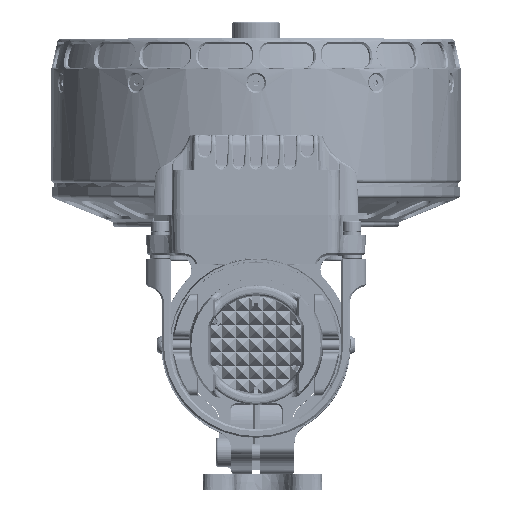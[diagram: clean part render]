
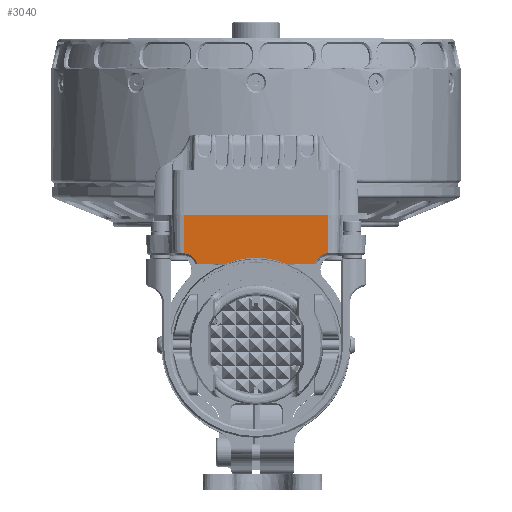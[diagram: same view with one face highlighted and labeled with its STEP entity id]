
A CAD part, top view. The second image highlights one B-rep face of the part: STEP entity #3040.
In plain terms, the highlighted planar face has unit normal (0, -0.035, 0.999).
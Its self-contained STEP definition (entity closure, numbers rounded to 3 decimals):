
#3040 = ADVANCED_FACE ( 'NONE', ( #46136 ), #264727, .T. ) ;
#9075 = CARTESIAN_POINT ( 'NONE',  ( -18.334, 25.304, 245.564 ) ) ;
#12349 = CARTESIAN_POINT ( 'NONE',  ( 17.144, 23.3, 245.494 ) ) ;
#14673 = CARTESIAN_POINT ( 'NONE',  ( 21.2, 26.492, 245.605 ) ) ;
#16366 = VERTEX_POINT ( 'NONE', #463198 ) ;
#38081 = CARTESIAN_POINT ( 'NONE',  ( -9.091, 23.3, 245.494 ) ) ;
#43352 = CARTESIAN_POINT ( 'NONE',  ( 9.091, 23.3, 245.494 ) ) ;
#46136 = FACE_OUTER_BOUND ( 'NONE', #450322, .T. ) ;
#51769 = CARTESIAN_POINT ( 'NONE',  ( -17.272, 23.71, 245.508 ) ) ;
#52854 = VERTEX_POINT ( 'NONE', #370585 ) ;
#54925 = CARTESIAN_POINT ( 'NONE',  ( -20.241, 26.369, 245.601 ) ) ;
#60428 = LINE ( 'NONE', #307653, #232123 ) ;
#76202 = VERTEX_POINT ( 'NONE', #305267 ) ;
#86113 = CARTESIAN_POINT ( 'NONE',  ( -17.144, 23.3, 245.494 ) ) ;
#90573 = CARTESIAN_POINT ( 'NONE',  ( -20.907, 26.476, 245.605 ) ) ;
#100993 = VERTEX_POINT ( 'NONE', #86113 ) ;
#101825 = AXIS2_PLACEMENT_3D ( 'NONE', #302737, #300419, #438440 ) ;
#119162 = DIRECTION ( 'NONE',  ( 0., -0.999, -0.035 ) ) ;
#147942 = DIRECTION ( 'NONE',  ( -1., 0., 0. ) ) ;
#153862 = EDGE_CURVE ( 'NONE', #422701, #440932, #326234, .T. ) ;
#154055 = CARTESIAN_POINT ( 'NONE',  ( -17.151, 23.325, 245.495 ) ) ;
#154950 = CARTESIAN_POINT ( 'NONE',  ( 17.151, 23.323, 245.494 ) ) ;
#157290 = CARTESIAN_POINT ( 'NONE',  ( 17.604, 24.417, 245.533 ) ) ;
#166411 = DIRECTION ( 'NONE',  ( -1., 0., 0. ) ) ;
#167772 = B_SPLINE_CURVE_WITH_KNOTS ( 'NONE', 3,
 ( #12349, #154950, #297540, #157290, #371251, #299921, #226204, #188242, #14673 ),
 .UNSPECIFIED., .F., .F.,
 ( 4, 1, 1, 1, 1, 1, 4 ),
 ( 0., 0., 0.001, 0.002, 0.003, 0.005, 0.005 ),
 .UNSPECIFIED. ) ;
#168732 = CARTESIAN_POINT ( 'NONE',  ( -14.937, 23.3, 245.494 ) ) ;
#179367 = ORIENTED_EDGE ( 'NONE', *, *, #315251, .T. ) ;
#183015 = CARTESIAN_POINT ( 'NONE',  ( -3.209, 25.871, 245.583 ) ) ;
#184781 = ORIENTED_EDGE ( 'NONE', *, *, #356486, .F. ) ;
#188098 = CARTESIAN_POINT ( 'NONE',  ( 21.2, 37.8, 246. ) ) ;
#188242 = CARTESIAN_POINT ( 'NONE',  ( 20.905, 26.476, 245.605 ) ) ;
#190873 = ORIENTED_EDGE ( 'NONE', *, *, #317859, .T. ) ;
#198911 = VECTOR ( 'NONE', #147942, 1000. ) ;
#199079 = CARTESIAN_POINT ( 'NONE',  ( -17.144, 23.3, 245.494 ) ) ;
#209370 = B_SPLINE_CURVE_WITH_KNOTS ( 'NONE', 3,
 ( #416213, #90573, #54925, #270382, #9075, #227663, #51769, #154055, #199079 ),
 .UNSPECIFIED., .F., .F.,
 ( 4, 1, 1, 1, 1, 1, 4 ),
 ( 0., 0.001, 0.002, 0.003, 0.004, 0.005, 0.005 ),
 .UNSPECIFIED. ) ;
#210858 = VERTEX_POINT ( 'NONE', #383244 ) ;
#214130 = DIRECTION ( 'NONE',  ( 0., -0.999, -0.035 ) ) ;
#217753 = EDGE_CURVE ( 'NONE', #210858, #16366, #60428, .T. ) ;
#221029 = CARTESIAN_POINT ( 'NONE',  ( 9.091, 23.3, 245.494 ) ) ;
#221993 = EDGE_CURVE ( 'NONE', #331379, #100993, #209370, .T. ) ;
#226204 = CARTESIAN_POINT ( 'NONE',  ( 20.236, 26.368, 245.601 ) ) ;
#227663 = CARTESIAN_POINT ( 'NONE',  ( -17.607, 24.423, 245.533 ) ) ;
#232123 = VECTOR ( 'NONE', #312319, 1000. ) ;
#242378 = LINE ( 'NONE', #168732, #416951 ) ;
#246461 = CARTESIAN_POINT ( 'NONE',  ( 9.091, 23.3, 245.494 ) ) ;
#264727 = PLANE ( 'NONE',  #101825 ) ;
#270382 = CARTESIAN_POINT ( 'NONE',  ( -19.253, 25.976, 245.587 ) ) ;
#286646 = VECTOR ( 'NONE', #119162, 1000. ) ;
#297540 = CARTESIAN_POINT ( 'NONE',  ( 17.271, 23.706, 245.508 ) ) ;
#299776 = LINE ( 'NONE', #188098, #286646 ) ;
#299921 = CARTESIAN_POINT ( 'NONE',  ( 19.246, 25.972, 245.587 ) ) ;
#300419 = DIRECTION ( 'NONE',  ( 0., -0.035, 0.999 ) ) ;
#302737 = CARTESIAN_POINT ( 'NONE',  ( -27.577, 37.8, 246. ) ) ;
#305267 = CARTESIAN_POINT ( 'NONE',  ( 21.2, 26.492, 245.605 ) ) ;
#307653 = CARTESIAN_POINT ( 'NONE',  ( 0., 37.8, 246. ) ) ;
#312319 = DIRECTION ( 'NONE',  ( 1., 0., 0. ) ) ;
#315251 = EDGE_CURVE ( 'NONE', #52854, #440932, #416962, .T. ) ;
#317859 = EDGE_CURVE ( 'NONE', #210858, #331379, #359137, .T. ) ;
#326234 = LINE ( 'NONE', #43352, #198911 ) ;
#331379 = VERTEX_POINT ( 'NONE', #441615 ) ;
#333472 = EDGE_CURVE ( 'NONE', #16366, #76202, #299776, .T. ) ;
#353119 = CARTESIAN_POINT ( 'NONE',  ( 17.144, 23.3, 245.494 ) ) ;
#356486 = EDGE_CURVE ( 'NONE', #52854, #100993, #242378, .T. ) ;
#359137 = LINE ( 'NONE', #461520, #459335 ) ;
#370585 = CARTESIAN_POINT ( 'NONE',  ( -9.091, 23.3, 245.494 ) ) ;
#371251 = CARTESIAN_POINT ( 'NONE',  ( 18.329, 25.299, 245.563 ) ) ;
#375113 = ORIENTED_EDGE ( 'NONE', *, *, #395478, .T. ) ;
#381565 = ORIENTED_EDGE ( 'NONE', *, *, #221993, .T. ) ;
#383244 = CARTESIAN_POINT ( 'NONE',  ( -21.2, 37.8, 246. ) ) ;
#395478 = EDGE_CURVE ( 'NONE', #422701, #76202, #167772, .T. ) ;
#401718 = CARTESIAN_POINT ( 'NONE',  ( 3.209, 25.871, 245.583 ) ) ;
#408361 = ORIENTED_EDGE ( 'NONE', *, *, #333472, .F. ) ;
#416213 = CARTESIAN_POINT ( 'NONE',  ( -21.2, 26.492, 245.605 ) ) ;
#416951 = VECTOR ( 'NONE', #166411, 1000. ) ;
#416962 =( BOUNDED_CURVE ( )  B_SPLINE_CURVE ( 3, ( #38081, #183015, #401718, #221029 ),
 .UNSPECIFIED., .F., .F. ) 
 B_SPLINE_CURVE_WITH_KNOTS ( ( 4, 4 ),
 ( 5.871, 6.695 ),
 .UNSPECIFIED. ) 
 CURVE ( )  GEOMETRIC_REPRESENTATION_ITEM ( )  RATIONAL_B_SPLINE_CURVE ( ( 1., 0.944, 0.944, 1. ) ) 
 REPRESENTATION_ITEM ( '' )  );
#422701 = VERTEX_POINT ( 'NONE', #353119 ) ;
#429131 = ORIENTED_EDGE ( 'NONE', *, *, #153862, .F. ) ;
#438440 = DIRECTION ( 'NONE',  ( 0., -0.999, -0.035 ) ) ;
#440932 = VERTEX_POINT ( 'NONE', #246461 ) ;
#441583 = ORIENTED_EDGE ( 'NONE', *, *, #217753, .F. ) ;
#441615 = CARTESIAN_POINT ( 'NONE',  ( -21.2, 26.492, 245.605 ) ) ;
#450322 = EDGE_LOOP ( 'NONE', ( #190873, #381565, #184781, #179367, #429131, #375113, #408361, #441583 ) ) ;
#459335 = VECTOR ( 'NONE', #214130, 1000. ) ;
#461520 = CARTESIAN_POINT ( 'NONE',  ( -21.2, 37.8, 246. ) ) ;
#463198 = CARTESIAN_POINT ( 'NONE',  ( 21.2, 37.8, 246. ) ) ;
